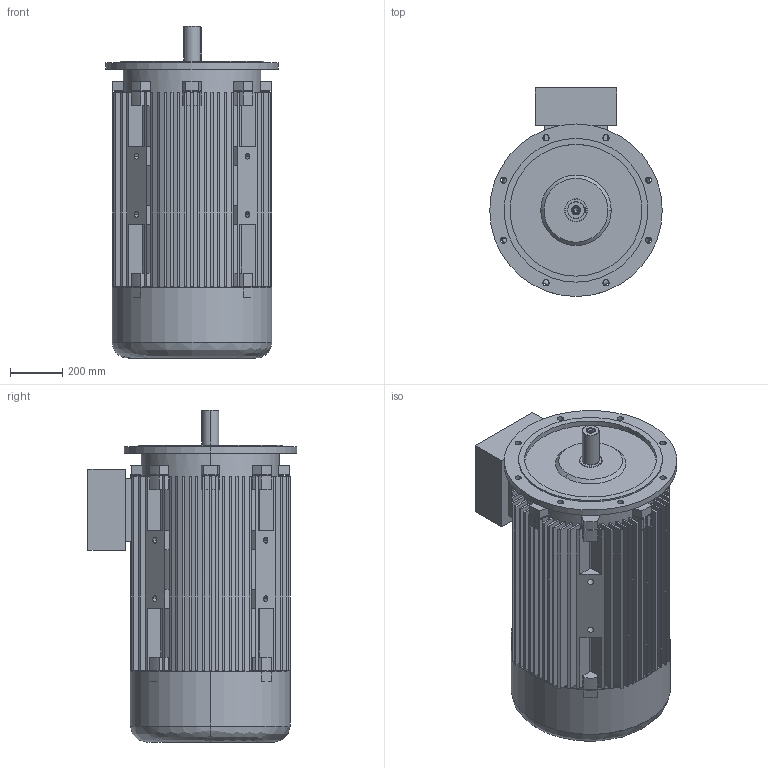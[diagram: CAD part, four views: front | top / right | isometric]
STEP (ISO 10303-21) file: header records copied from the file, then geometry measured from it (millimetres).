
FILE_DESCRIPTION (( 'STEP AP203' ), '1' );
FILE_NAME ('20.18378_B 7AZ 315S & M -2 B5 STANDK.STEP', '2018-04-05T09:56:22', ( '' ), ( '' ), 'SwSTEP 2.0', 'SolidWorks 2017', '' );
FILE_SCHEMA (( 'CONFIG_CONTROL_DESIGN' ));
Length unit declared in the file: millimetre
Products named in the file (1): 20.18378_B  7AZ 315S & M -2 B5 STANDK
Bounding box: 660 x 800 x 1270 mm (x, y, z)
Volume: 93534219.5 mm3; surface area: 11257236.3 mm2
Topology: 6 solids, 6 shells, 782 faces, 2089 edges, 1373 vertices
Faces by surface type: plane 609, cylinder 126, cone 34, bspline 13
Entity records: 24977 total; most frequent: CARTESIAN_POINT 5072, ORIENTED_EDGE 4142, DIRECTION 4071, EDGE_CURVE 2071, LINE 1543, VECTOR 1543, VERTEX_POINT 1373, AXIS2_PLACEMENT_3D 1264
